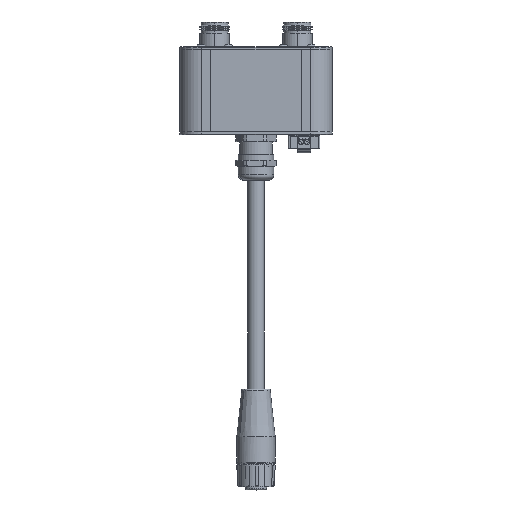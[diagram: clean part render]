
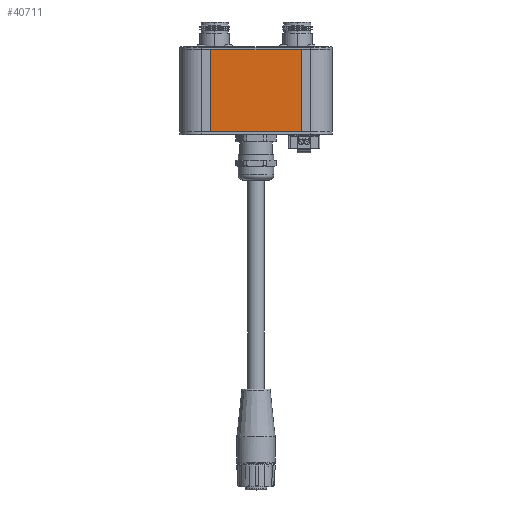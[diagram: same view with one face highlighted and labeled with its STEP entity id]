
A CAD part, top view. The second image highlights one B-rep face of the part: STEP entity #40711.
In plain terms, the highlighted planar face has unit normal (0, 0, 1).
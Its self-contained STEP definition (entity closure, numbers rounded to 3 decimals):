
#459 = VERTEX_POINT ( 'NONE', #13575 ) ;
#2581 = VERTEX_POINT ( 'NONE', #76541 ) ;
#4513 = ORIENTED_EDGE ( 'NONE', *, *, #49445, .F. ) ;
#12343 = VECTOR ( 'NONE', #185181, 1000. ) ;
#13575 = CARTESIAN_POINT ( 'NONE',  ( -170.458, 22.294, 46.893 ) ) ;
#13636 = CARTESIAN_POINT ( 'NONE',  ( -170.458, 22.294, 46.893 ) ) ;
#18939 = ORIENTED_EDGE ( 'NONE', *, *, #125714, .T. ) ;
#23177 = LINE ( 'NONE', #174482, #136174 ) ;
#27149 = VECTOR ( 'NONE', #162019, 1000. ) ;
#34308 = VERTEX_POINT ( 'NONE', #191634 ) ;
#40711 = ADVANCED_FACE ( 'NONE', ( #171067 ), #111201, .F. ) ;
#49445 = EDGE_CURVE ( 'NONE', #121709, #2581, #164067, .T. ) ;
#53375 = AXIS2_PLACEMENT_3D ( 'NONE', #78750, #63552, #99945 ) ;
#55875 = EDGE_LOOP ( 'NONE', ( #18939, #4513, #66805, #126729 ) ) ;
#63552 = DIRECTION ( 'NONE',  ( 0., 0., -1. ) ) ;
#66805 = ORIENTED_EDGE ( 'NONE', *, *, #188599, .F. ) ;
#76541 = CARTESIAN_POINT ( 'NONE',  ( -220.458, 67.294, 46.893 ) ) ;
#78750 = CARTESIAN_POINT ( 'NONE',  ( -220.458, 22.294, 46.893 ) ) ;
#86007 = CARTESIAN_POINT ( 'NONE',  ( -220.458, 22.294, 46.893 ) ) ;
#99945 = DIRECTION ( 'NONE',  ( 0., 1., 0. ) ) ;
#111201 = PLANE ( 'NONE',  #53375 ) ;
#119740 = EDGE_CURVE ( 'NONE', #459, #34308, #184194, .T. ) ;
#121709 = VERTEX_POINT ( 'NONE', #125859 ) ;
#123596 = CARTESIAN_POINT ( 'NONE',  ( -220.458, 22.294, 46.893 ) ) ;
#125714 = EDGE_CURVE ( 'NONE', #34308, #2581, #23177, .T. ) ;
#125859 = CARTESIAN_POINT ( 'NONE',  ( -220.458, 22.294, 46.893 ) ) ;
#126729 = ORIENTED_EDGE ( 'NONE', *, *, #119740, .T. ) ;
#133090 = VECTOR ( 'NONE', #185589, 1000. ) ;
#136174 = VECTOR ( 'NONE', #145958, 1000. ) ;
#138792 = LINE ( 'NONE', #123596, #133090 ) ;
#145958 = DIRECTION ( 'NONE',  ( -1., 0., 0. ) ) ;
#162019 = DIRECTION ( 'NONE',  ( 0., 1., 0. ) ) ;
#164067 = LINE ( 'NONE', #86007, #27149 ) ;
#171067 = FACE_OUTER_BOUND ( 'NONE', #55875, .T. ) ;
#174482 = CARTESIAN_POINT ( 'NONE',  ( -220.458, 67.294, 46.893 ) ) ;
#184194 = LINE ( 'NONE', #13636, #12343 ) ;
#185181 = DIRECTION ( 'NONE',  ( 0., 1., 0. ) ) ;
#185589 = DIRECTION ( 'NONE',  ( -1., 0., 0. ) ) ;
#188599 = EDGE_CURVE ( 'NONE', #459, #121709, #138792, .T. ) ;
#191634 = CARTESIAN_POINT ( 'NONE',  ( -170.458, 67.294, 46.893 ) ) ;
